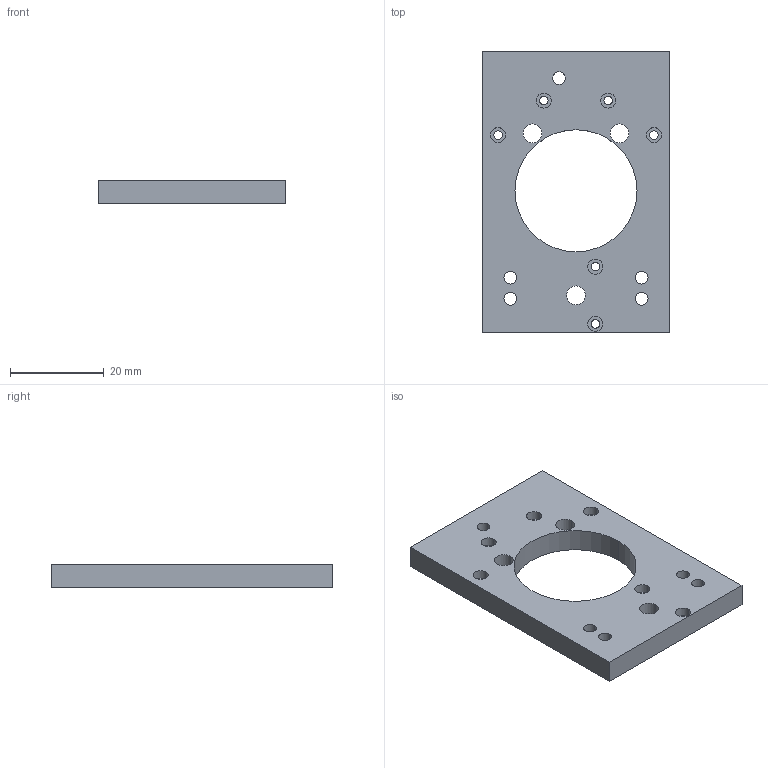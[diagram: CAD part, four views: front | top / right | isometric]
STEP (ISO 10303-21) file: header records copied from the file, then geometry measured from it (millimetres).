
FILE_DESCRIPTION(/* description */ ('VariCAD 2010-2.03 AP-203'),/* implementation_level */ '2;1');
FILE_NAME(/* name */ '0353-40-01',/* time_stamp */ '2010-03-02T12:00:11-07:00',/* author */ (''),/* organization */ (''),/* preprocessor_version */ 'ST-DEVELOPER v12',/* originating_system */ 'VariCAD 2010-2.03; kernel version (20100102)',/* authorisation */ '');
FILE_SCHEMA (('CONFIG_CONTROL_DESIGN'));
Length unit declared in the file: millimetre
Products named in the file (1): Part
Bounding box: 40 x 60 x 5 mm (x, y, z)
Volume: 8824.9 mm3; surface area: 5631.5 mm2
Topology: 1 solids, 1 shells, 60 faces, 150 edges, 100 vertices
Faces by surface type: cylinder 46, plane 14
Entity records: 1952 total; most frequent: DIRECTION 366, CARTESIAN_POINT 312, ORIENTED_EDGE 300, AXIS2_PLACEMENT_3D 154, EDGE_CURVE 150, VERTEX_POINT 100, EDGE_LOOP 98, CIRCLE 92
